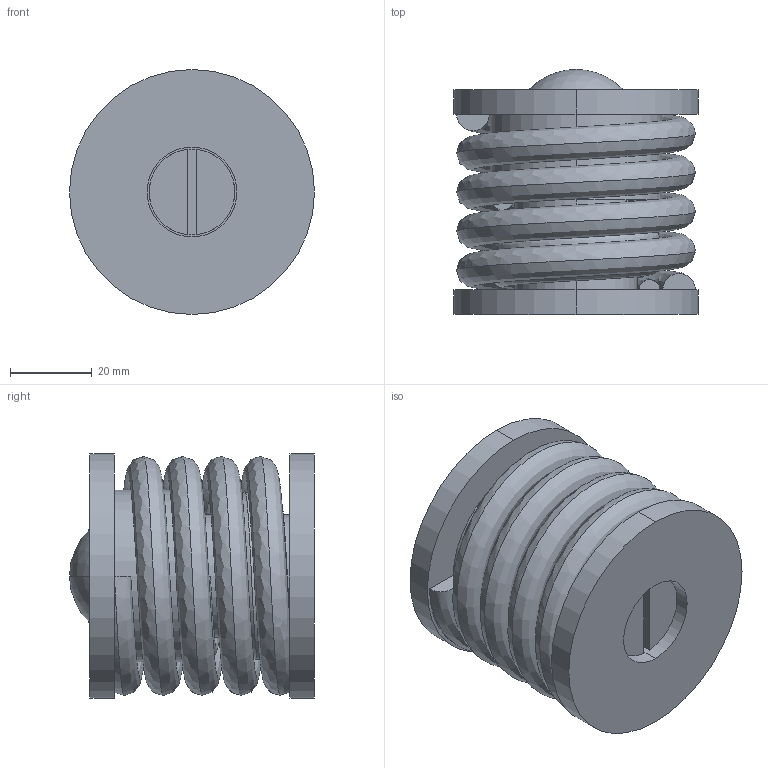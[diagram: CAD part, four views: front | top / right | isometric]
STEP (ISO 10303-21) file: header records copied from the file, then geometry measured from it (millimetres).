
FILE_DESCRIPTION (( 'STEP AP203' ), '1' );
FILE_NAME ('PV200C.STEP', '2016-01-26T02:09:38', ( '' ), ( '' ), 'SwSTEP 2.0', 'SolidWorks 2013', '' );
FILE_SCHEMA (( 'CONFIG_CONTROL_DESIGN' ));
Length unit declared in the file: millimetre
Products named in the file (1): PV200C
Bounding box: 60 x 60 x 60 mm (x, y, z)
Volume: 119012.5 mm3; surface area: 40410.3 mm2
Topology: 1 solids, 1 shells, 45 faces, 92 edges, 59 vertices
Faces by surface type: cylinder 20, plane 19, bspline 4, sphere 2
Entity records: 5603 total; most frequent: CARTESIAN_POINT 4549, DIRECTION 220, ORIENTED_EDGE 184, AXIS2_PLACEMENT_3D 94, EDGE_CURVE 92, EDGE_LOOP 59, VERTEX_POINT 59, CIRCLE 52
